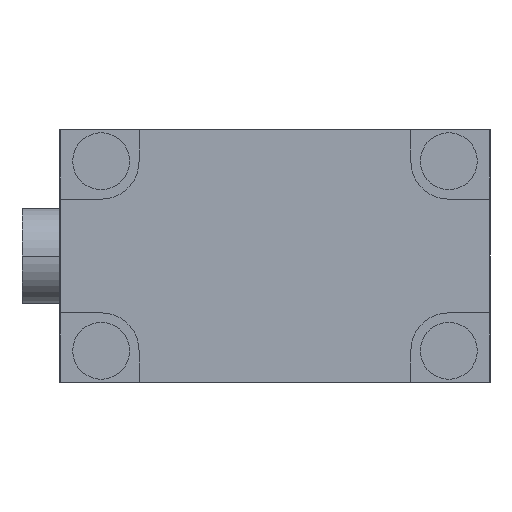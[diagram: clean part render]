
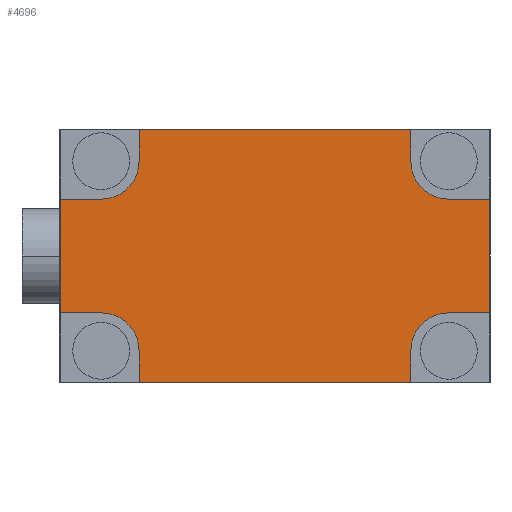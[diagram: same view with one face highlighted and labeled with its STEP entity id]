
A CAD part, front view. The second image highlights one B-rep face of the part: STEP entity #4696.
In plain terms, the highlighted planar face has unit normal (0, -1, 0).
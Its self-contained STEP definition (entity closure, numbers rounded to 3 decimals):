
#1422=CARTESIAN_POINT('',(27.485,-63.,-14.985));
#1423=DIRECTION('',(0.,-1.,0.));
#1424=DIRECTION('',(0.,0.,1.));
#1425=AXIS2_PLACEMENT_3D('',#1422,#1423,#1424);
#1427=DIRECTION('',(0.,0.,1.));
#1428=VECTOR('',#1427,5.);
#1429=CARTESIAN_POINT('',(21.485,-63.,-19.985));
#1430=LINE('10216',#1429,#1428);
#1431=DIRECTION('',(1.,0.,0.));
#1432=VECTOR('',#1431,42.97);
#1433=CARTESIAN_POINT('',(-21.485,-63.,-19.985));
#1434=LINE('10729',#1433,#1432);
#1435=DIRECTION('',(0.,0.,1.));
#1436=VECTOR('',#1435,5.);
#1437=CARTESIAN_POINT('',(-21.485,-63.,-19.985));
#1438=LINE('10222',#1437,#1436);
#1439=CARTESIAN_POINT('',(-27.485,-63.,-14.985));
#1440=DIRECTION('',(0.,-1.,0.));
#1441=DIRECTION('',(1.,0.,0.));
#1442=AXIS2_PLACEMENT_3D('',#1439,#1440,#1441);
#1444=DIRECTION('',(1.,0.,0.));
#1445=VECTOR('',#1444,6.5);
#1446=CARTESIAN_POINT('',(-33.985,-63.,-8.985));
#1447=LINE('10221',#1446,#1445);
#1448=DIRECTION('',(0.,0.,-1.));
#1449=VECTOR('',#1448,17.97);
#1450=CARTESIAN_POINT('',(-33.985,-63.,8.985));
#1451=LINE('10732',#1450,#1449);
#1452=DIRECTION('',(1.,0.,0.));
#1453=VECTOR('',#1452,6.5);
#1454=CARTESIAN_POINT('',(-33.985,-63.,8.985));
#1455=LINE('10226',#1454,#1453);
#1456=CARTESIAN_POINT('',(-27.485,-63.,14.985));
#1457=DIRECTION('',(0.,-1.,0.));
#1458=DIRECTION('',(0.,0.,-1.));
#1459=AXIS2_PLACEMENT_3D('',#1456,#1457,#1458);
#1461=DIRECTION('',(0.,0.,-1.));
#1462=VECTOR('',#1461,5.);
#1463=CARTESIAN_POINT('',(-21.485,-63.,19.985));
#1464=LINE('10225',#1463,#1462);
#1465=DIRECTION('',(-1.,0.,0.));
#1466=VECTOR('',#1465,42.97);
#1467=CARTESIAN_POINT('',(21.485,-63.,19.985));
#1468=LINE('10731',#1467,#1466);
#1469=DIRECTION('',(0.,0.,-1.));
#1470=VECTOR('',#1469,5.);
#1471=CARTESIAN_POINT('',(21.485,-63.,19.985));
#1472=LINE('10219',#1471,#1470);
#1473=CARTESIAN_POINT('',(27.485,-63.,14.985));
#1474=DIRECTION('',(0.,-1.,0.));
#1475=DIRECTION('',(-1.,0.,0.));
#1476=AXIS2_PLACEMENT_3D('',#1473,#1474,#1475);
#1478=DIRECTION('',(-1.,0.,0.));
#1479=VECTOR('',#1478,6.5);
#1480=CARTESIAN_POINT('',(33.985,-63.,8.985));
#1481=LINE('10218',#1480,#1479);
#1482=DIRECTION('',(0.,0.,1.));
#1483=VECTOR('',#1482,17.97);
#1484=CARTESIAN_POINT('',(33.985,-63.,-8.985));
#1485=LINE('10730',#1484,#1483);
#1486=DIRECTION('',(-1.,0.,0.));
#1487=VECTOR('',#1486,6.5);
#1488=CARTESIAN_POINT('',(33.985,-63.,-8.985));
#1489=LINE('10217',#1488,#1487);
#2153=CARTESIAN_POINT('',(27.485,-63.,-8.985));
#2154=CARTESIAN_POINT('',(21.485,-63.,-14.985));
#2155=VERTEX_POINT('',#2153);
#2156=VERTEX_POINT('',#2154);
#2157=CARTESIAN_POINT('',(21.485,-63.,-19.985));
#2158=VERTEX_POINT('',#2157);
#2159=CARTESIAN_POINT('',(33.985,-63.,-8.985));
#2160=VERTEX_POINT('',#2159);
#2161=CARTESIAN_POINT('',(33.985,-63.,8.985));
#2162=CARTESIAN_POINT('',(27.485,-63.,8.985));
#2163=VERTEX_POINT('',#2161);
#2164=VERTEX_POINT('',#2162);
#2165=CARTESIAN_POINT('',(21.485,-63.,19.985));
#2166=CARTESIAN_POINT('',(21.485,-63.,14.985));
#2167=VERTEX_POINT('',#2165);
#2168=VERTEX_POINT('',#2166);
#2169=CARTESIAN_POINT('',(-33.985,-63.,-8.985));
#2170=CARTESIAN_POINT('',(-27.485,-63.,-8.985));
#2171=VERTEX_POINT('',#2169);
#2172=VERTEX_POINT('',#2170);
#2173=CARTESIAN_POINT('',(-21.485,-63.,-19.985));
#2174=CARTESIAN_POINT('',(-21.485,-63.,-14.985));
#2175=VERTEX_POINT('',#2173);
#2176=VERTEX_POINT('',#2174);
#2177=CARTESIAN_POINT('',(-27.485,-63.,8.985));
#2178=CARTESIAN_POINT('',(-21.485,-63.,14.985));
#2179=VERTEX_POINT('',#2177);
#2180=VERTEX_POINT('',#2178);
#2181=CARTESIAN_POINT('',(-21.485,-63.,19.985));
#2182=VERTEX_POINT('',#2181);
#2183=CARTESIAN_POINT('',(-33.985,-63.,8.985));
#2184=VERTEX_POINT('',#2183);
#4659=CARTESIAN_POINT('',(0.,-63.,-20.));
#4660=DIRECTION('',(0.,-1.,0.));
#4661=DIRECTION('',(0.,0.,1.));
#4662=AXIS2_PLACEMENT_3D('',#4659,#4660,#4661);
#4663=PLANE('10103',#4662);
#4665=ORIENTED_EDGE('10215',*,*,#4664,.T.);
#4666=ORIENTED_EDGE('10216',*,*,#4650,.F.);
#4667=ORIENTED_EDGE('10729',*,*,#4537,.F.);
#4669=ORIENTED_EDGE('10222',*,*,#4668,.T.);
#4671=ORIENTED_EDGE('10223',*,*,#4670,.T.);
#4673=ORIENTED_EDGE('10221',*,*,#4672,.F.);
#4675=ORIENTED_EDGE('10732',*,*,#4674,.F.);
#4677=ORIENTED_EDGE('10226',*,*,#4676,.T.);
#4679=ORIENTED_EDGE('10224',*,*,#4678,.T.);
#4681=ORIENTED_EDGE('10225',*,*,#4680,.F.);
#4683=ORIENTED_EDGE('10731',*,*,#4682,.F.);
#4685=ORIENTED_EDGE('10219',*,*,#4684,.T.);
#4687=ORIENTED_EDGE('10220',*,*,#4686,.T.);
#4689=ORIENTED_EDGE('10218',*,*,#4688,.F.);
#4691=ORIENTED_EDGE('10730',*,*,#4690,.F.);
#4693=ORIENTED_EDGE('10217',*,*,#4692,.T.);
#4694=EDGE_LOOP('10103',(#4665,#4666,#4667,#4669,#4671,#4673,#4675,#4677,#4679,
#4681,#4683,#4685,#4687,#4689,#4691,#4693));
#4695=FACE_OUTER_BOUND('10103',#4694,.F.);
#4696=ADVANCED_FACE('10103',(#4695),#4663,.T.);
#1426=CIRCLE('10215',#1425,6.);
#1443=CIRCLE('10223',#1442,6.);
#1460=CIRCLE('10224',#1459,6.);
#1477=CIRCLE('10220',#1476,6.);
#4537=EDGE_CURVE('10729',#2175,#2158,#1434,.T.);
#4650=EDGE_CURVE('10216',#2158,#2156,#1430,.T.);
#4664=EDGE_CURVE('10215',#2155,#2156,#1426,.T.);
#4668=EDGE_CURVE('10222',#2175,#2176,#1438,.T.);
#4670=EDGE_CURVE('10223',#2176,#2172,#1443,.T.);
#4672=EDGE_CURVE('10221',#2171,#2172,#1447,.T.);
#4674=EDGE_CURVE('10732',#2184,#2171,#1451,.T.);
#4676=EDGE_CURVE('10226',#2184,#2179,#1455,.T.);
#4678=EDGE_CURVE('10224',#2179,#2180,#1460,.T.);
#4680=EDGE_CURVE('10225',#2182,#2180,#1464,.T.);
#4682=EDGE_CURVE('10731',#2167,#2182,#1468,.T.);
#4684=EDGE_CURVE('10219',#2167,#2168,#1472,.T.);
#4686=EDGE_CURVE('10220',#2168,#2164,#1477,.T.);
#4688=EDGE_CURVE('10218',#2163,#2164,#1481,.T.);
#4690=EDGE_CURVE('10730',#2160,#2163,#1485,.T.);
#4692=EDGE_CURVE('10217',#2160,#2155,#1489,.T.);
